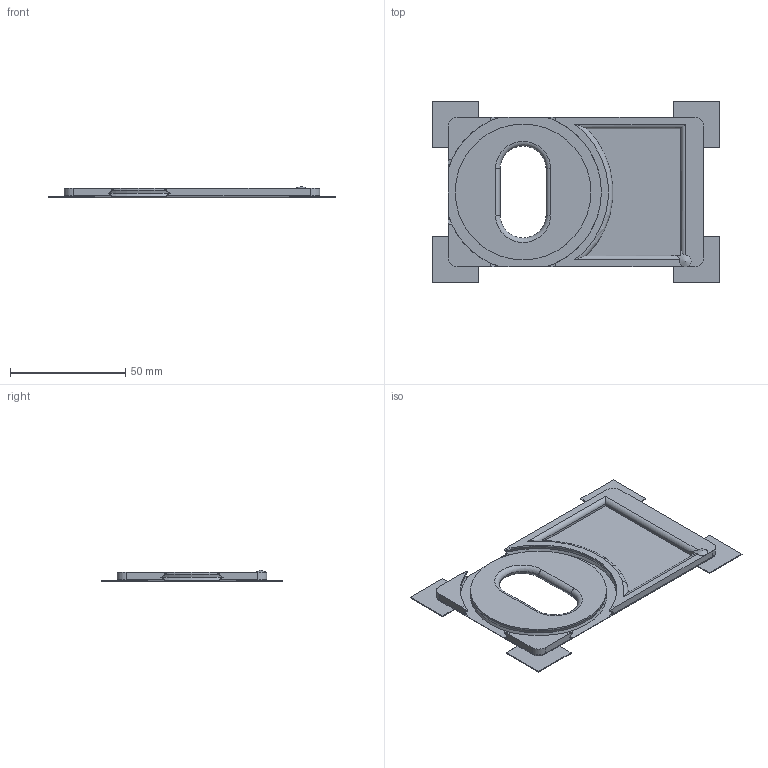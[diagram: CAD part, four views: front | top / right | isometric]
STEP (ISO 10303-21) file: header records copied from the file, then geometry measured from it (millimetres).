
FILE_DESCRIPTION(/* description */ (''),/* implementation_level */ '2;1');
FILE_NAME(/* name */ 'C:\Users\Sam\Documents\XPS\Sam\Inventor\Business Card Holder\STEP files\Top Loose.stp',/* time_stamp */ '2015-11-25T10:15:15-07:00',/* author */ ('Sam'),/* organization */ (''),/* preprocessor_version */ 'ST-DEVELOPER v16.1',/* originating_system */ 'Autodesk Inventor 2016',/* authorisation */ '');
FILE_SCHEMA (('AUTOMOTIVE_DESIGN { 1 0 10303 214 3 1 1 }'));
Length unit declared in the file: millimetre
Products named in the file (1): Top Loose
Bounding box: 125 x 79 x 5.01 mm (x, y, z)
Volume: 18029.5 mm3; surface area: 17824.9 mm2
Topology: 1 solids, 1 shells, 97 faces, 268 edges, 173 vertices
Faces by surface type: plane 45, cylinder 22, bspline 12, torus 9, cone 9
Full cylindrical faces by diameter (mm): 59 x1
Entity records: 3817 total; most frequent: CARTESIAN_POINT 1455, ORIENTED_EDGE 526, DIRECTION 435, EDGE_CURVE 263, VERTEX_POINT 172, AXIS2_PLACEMENT_3D 158, LINE 119, VECTOR 119
